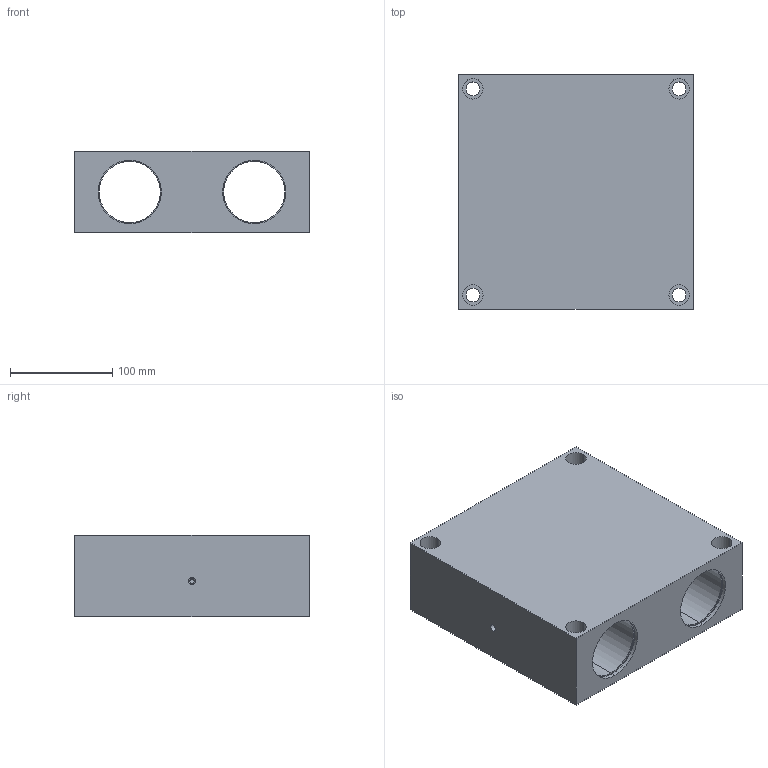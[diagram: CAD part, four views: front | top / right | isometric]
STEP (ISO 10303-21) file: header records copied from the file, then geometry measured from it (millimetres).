
FILE_DESCRIPTION (( 'STEP AP214' ), '1' );
FILE_NAME ('KQSG-40.step', '2020-03-04T13:34:34', ( '' ), ( '' ), 'SwSTEP 2.0', 'SolidWorks 2019', '' );
FILE_SCHEMA (( 'AUTOMOTIVE_DESIGN' ));
Length unit declared in the file: millimetre
Products named in the file (1): KQSG-40
Bounding box: 230 x 230 x 80 mm (x, y, z)
Volume: 2803556.7 mm3; surface area: 274215.6 mm2
Topology: 1 solids, 1 shells, 96 faces, 210 edges, 135 vertices
Faces by surface type: cylinder 62, plane 26, cone 8
Entity records: 3066 total; most frequent: CARTESIAN_POINT 562, DIRECTION 520, ORIENTED_EDGE 416, AXIS2_PLACEMENT_3D 219, EDGE_CURVE 208, VERTEX_POINT 135, EDGE_LOOP 133, CIRCLE 122
